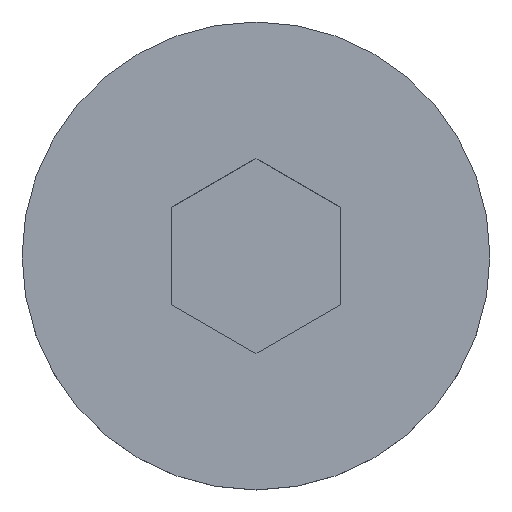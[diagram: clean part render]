
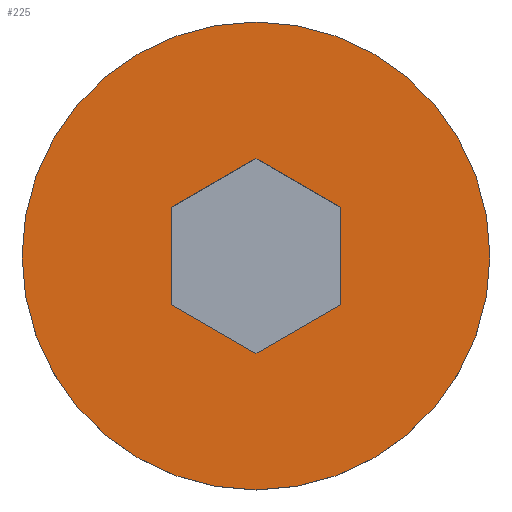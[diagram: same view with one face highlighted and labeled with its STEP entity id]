
A CAD part, top view. The second image highlights one B-rep face of the part: STEP entity #225.
In plain terms, the highlighted planar face has unit normal (0, 0, 1).
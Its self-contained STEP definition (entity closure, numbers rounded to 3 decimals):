
#19=FACE_BOUND('',#53,.T.);
#22=PLANE('',#260);
#38=FACE_OUTER_BOUND('',#52,.T.);
#52=EDGE_LOOP('',(#185));
#53=EDGE_LOOP('',(#186,#187,#188,#189,#190,#191));
#70=LINE('',#376,#92);
#73=LINE('',#383,#95);
#74=LINE('',#385,#96);
#75=LINE('',#387,#97);
#76=LINE('',#389,#98);
#77=LINE('',#390,#99);
#92=VECTOR('',#307,10.);
#95=VECTOR('',#314,10.);
#96=VECTOR('',#315,10.);
#97=VECTOR('',#316,10.);
#98=VECTOR('',#317,10.);
#99=VECTOR('',#318,10.);
#111=CIRCLE('',#261,2.77);
#123=VERTEX_POINT('',#374);
#124=VERTEX_POINT('',#375);
#125=VERTEX_POINT('',#380);
#126=VERTEX_POINT('',#382);
#127=VERTEX_POINT('',#384);
#128=VERTEX_POINT('',#386);
#129=VERTEX_POINT('',#388);
#145=EDGE_CURVE('',#123,#124,#70,.T.);
#148=EDGE_CURVE('',#125,#125,#111,.T.);
#149=EDGE_CURVE('',#124,#126,#73,.T.);
#150=EDGE_CURVE('',#126,#127,#74,.T.);
#151=EDGE_CURVE('',#127,#128,#75,.T.);
#152=EDGE_CURVE('',#128,#129,#76,.T.);
#153=EDGE_CURVE('',#129,#123,#77,.T.);
#185=ORIENTED_EDGE('',*,*,#148,.F.);
#186=ORIENTED_EDGE('',*,*,#145,.T.);
#187=ORIENTED_EDGE('',*,*,#149,.T.);
#188=ORIENTED_EDGE('',*,*,#150,.T.);
#189=ORIENTED_EDGE('',*,*,#151,.T.);
#190=ORIENTED_EDGE('',*,*,#152,.T.);
#191=ORIENTED_EDGE('',*,*,#153,.T.);
#225=ADVANCED_FACE('',(#38,#19),#22,.T.);
#260=AXIS2_PLACEMENT_3D('',#379,#310,#311);
#261=AXIS2_PLACEMENT_3D('',#381,#312,#313);
#307=DIRECTION('',(0.866,0.5,0.));
#310=DIRECTION('center_axis',(0.,0.,1.));
#311=DIRECTION('ref_axis',(1.,0.,0.));
#312=DIRECTION('center_axis',(0.,0.,-1.));
#313=DIRECTION('ref_axis',(1.,0.,0.));
#314=DIRECTION('',(0.866,-0.5,0.));
#315=DIRECTION('',(0.,-1.,0.));
#316=DIRECTION('',(-0.866,-0.5,0.));
#317=DIRECTION('',(-0.866,0.5,0.));
#318=DIRECTION('',(0.,1.,0.));
#374=CARTESIAN_POINT('',(-1.,0.577,3.36));
#375=CARTESIAN_POINT('',(0.,1.155,3.36));
#376=CARTESIAN_POINT('',(-1.789,0.122,3.36));
#379=CARTESIAN_POINT('Origin',(-2.77,0.,3.36));
#380=CARTESIAN_POINT('',(2.77,0.,3.36));
#381=CARTESIAN_POINT('Origin',(0.,0.,3.36));
#382=CARTESIAN_POINT('',(1.,0.577,3.36));
#383=CARTESIAN_POINT('',(-0.789,1.61,3.36));
#384=CARTESIAN_POINT('',(1.,-0.577,3.36));
#385=CARTESIAN_POINT('',(1.,0.289,3.36));
#386=CARTESIAN_POINT('',(0.,-1.155,3.36));
#387=CARTESIAN_POINT('',(-0.289,-1.321,3.36));
#388=CARTESIAN_POINT('',(-1.,-0.577,3.36));
#389=CARTESIAN_POINT('',(-1.289,-0.411,3.36));
#390=CARTESIAN_POINT('',(-1.,-0.289,3.36));
